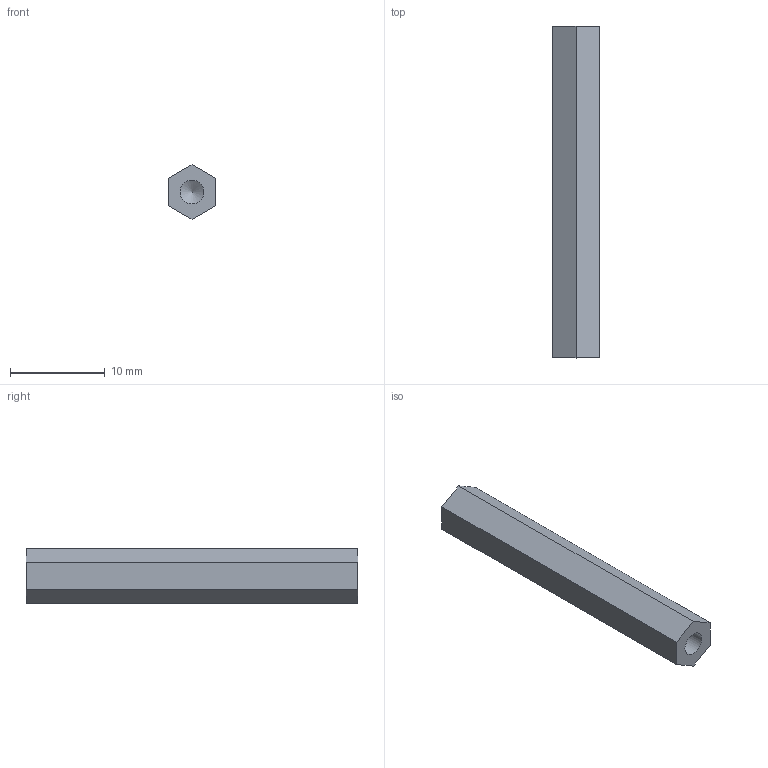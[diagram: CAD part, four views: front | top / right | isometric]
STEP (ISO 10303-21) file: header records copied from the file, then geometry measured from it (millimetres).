
FILE_DESCRIPTION(/* description */ ('STEP AP242','CAx-IF Rec.Pracs.---Representation and Presentation of Product Manufacturing Information (PMI)---4.0---2014-10-13','CAx-IF Rec.Pracs.---3D Tessellated Geometry---0.4---2014-09-14','2;1'),/* implementation_level */ '2;1');
FILE_NAME(/* name */ 'TurtleBot3 Burger - SUPPORT_HEX_M3_0XL35_FF (1)',/* time_stamp */ '2025-02-06T06:24:33Z',/* author */ (''),/* organization */ (''),/* preprocessor_version */ 'ST-DEVELOPER v20',/* originating_system */ 'ONSHAPE BY PTC INC, 1.193',/* authorisation */ ' ');
FILE_SCHEMA (('AP242_MANAGED_MODEL_BASED_3D_ENGINEERING_MIM_LF { 1 0 10303 442 1 1 4 }'));
Length unit declared in the file: metre
Products named in the file (1): SUPPORT_HEX_M3_0XL35_FF
Bounding box: 5 x 35 x 5.77 mm (x, y, z)
Volume: 657.1 mm3; surface area: 808.2 mm2
Topology: 1 solids, 1 shells, 12 faces, 30 edges, 20 vertices
Faces by surface type: plane 8, cone 2, cylinder 2
Full cylindrical faces by diameter (mm): 2.5 x2
Entity records: 417 total; most frequent: CARTESIAN_POINT 53, DIRECTION 52, ORIENTED_EDGE 44, EDGE_CURVE 22, VERTEX_POINT 18, LINE 18, VECTOR 18, FACE_BOUND 18
